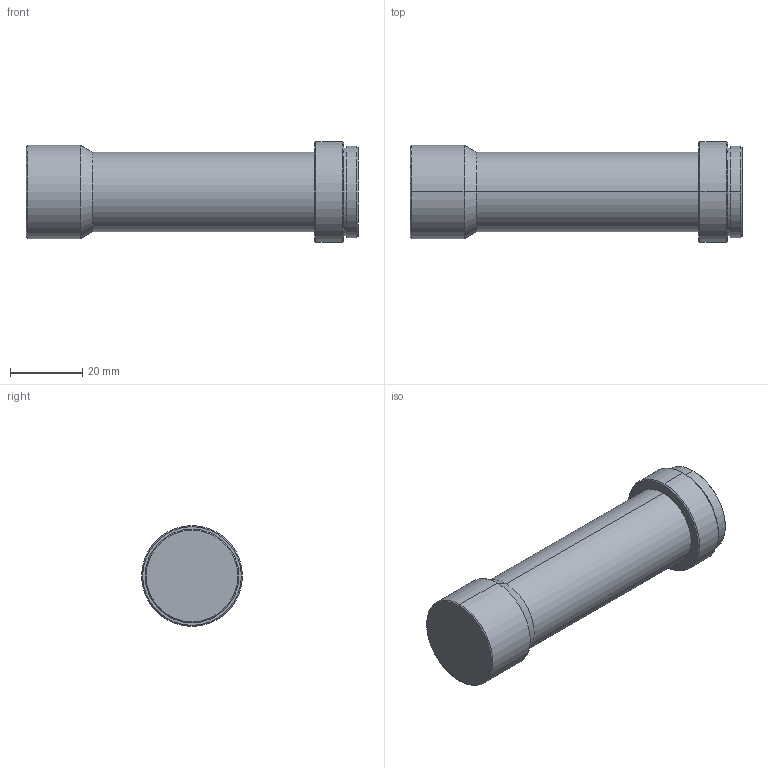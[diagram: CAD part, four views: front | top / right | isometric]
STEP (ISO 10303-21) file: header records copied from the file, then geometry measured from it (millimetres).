
FILE_DESCRIPTION (( 'STEP AP203' ), '1' );
FILE_NAME ('WWH20-65ATV2 STEPͼ.STEP', '2019-10-25T03:43:40', ( '' ), ( '' ), 'SwSTEP 2.0', 'SolidWorks 2014', '' );
FILE_SCHEMA (( 'CONFIG_CONTROL_DESIGN' ));
Length unit declared in the file: millimetre
Products named in the file (1): WWH20-65ATV2 STEPͼ
Bounding box: 92.2 x 28 x 28 mm (x, y, z)
Volume: 39911.6 mm3; surface area: 8214.7 mm2
Topology: 1 solids, 1 shells, 25 faces, 48 edges, 28 vertices
Faces by surface type: cone 10, cylinder 10, plane 5
Entity records: 711 total; most frequent: DIRECTION 128, CARTESIAN_POINT 102, ORIENTED_EDGE 96, AXIS2_PLACEMENT_3D 54, EDGE_CURVE 48, CIRCLE 28, VERTEX_POINT 28, EDGE_LOOP 28
